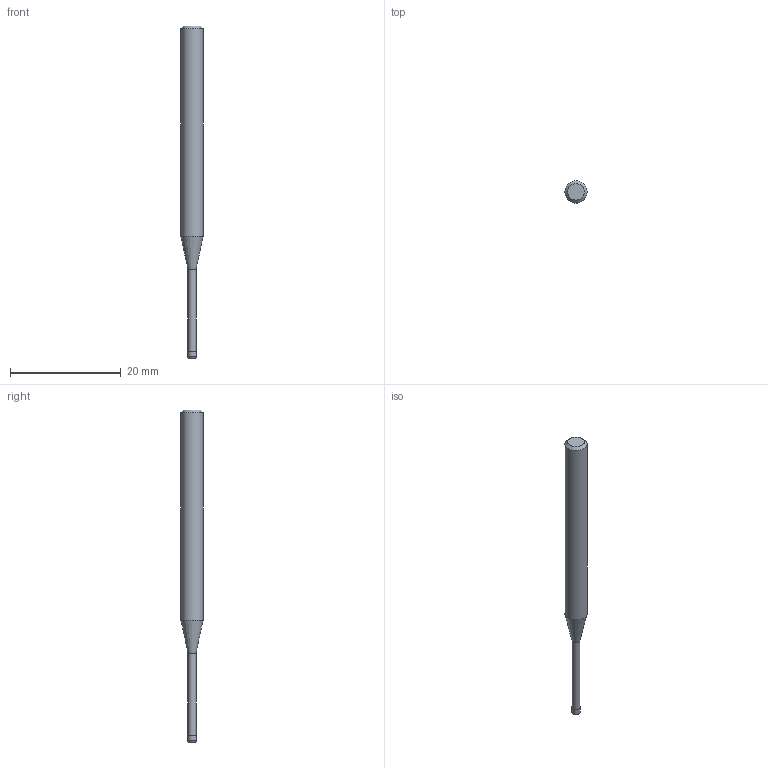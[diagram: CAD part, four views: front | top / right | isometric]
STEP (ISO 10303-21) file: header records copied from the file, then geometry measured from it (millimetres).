
FILE_DESCRIPTION((''),'2;1');
FILE_NAME('C:\Users\nsx150\AppData\Local\Temp\Mastercam 2021\17T8Q8S9EB\TEMP.step','2021-04-21T14:35:54',(''),(''),'STEP Write','Mastercam 2021 ... CNC Software, Inc.','');
FILE_SCHEMA(('AUTOMOTIVE_DESIGN'));
Length unit declared in the file: millimetre
Products named in the file (1): None
Bounding box: 4 x 4 x 60 mm (x, y, z)
Volume: 540.2 mm3; surface area: 616.4 mm2
Topology: 2 solids, 2 shells, 10 faces, 14 edges, 8 vertices
Faces by surface type: plane 4, cylinder 3, cone 2, torus 1
Full cylindrical faces by diameter (mm): 1.45 x1, 1.5 x1, 4 x1
Entity records: 232 total; most frequent: DIRECTION 40, CARTESIAN_POINT 28, AXIS2_PLACEMENT_3D 20, ORIENTED_EDGE 16, EDGE_LOOP 16, STYLED_ITEM 13, ADVANCED_FACE 10, FACE_BOUND 10
